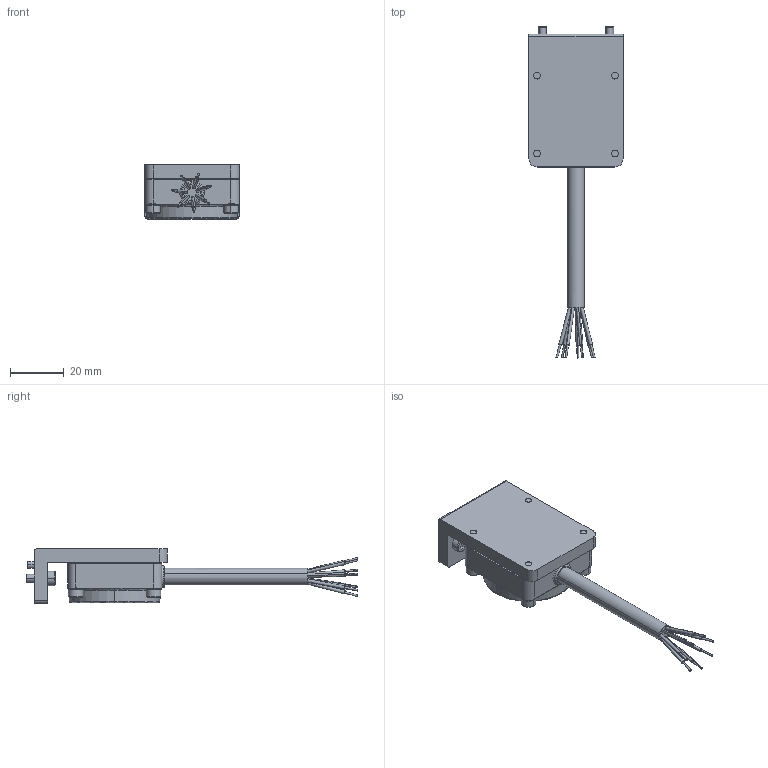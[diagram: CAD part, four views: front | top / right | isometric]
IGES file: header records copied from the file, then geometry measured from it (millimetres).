
Start section: 3D InterOp IGES (v. 2022 1.0.0), Spatial Corp. Copyright (c) 1999-2020.
Global section: file name: KHB-7RS-NN4,NP4_ver1.igs; native system: Spatial Corp.; preprocessor: 3D InterOp GENERIC/IGES 3.0; author: Noname; organization: Noname; date: 20260424.114550; units: millimetre
Bounding box: 35 x 123.57 x 20.2 mm (x, y, z)
Surface area: 12822.9 mm2 (no closed solid volume)
Topology: 0 solids, 0 shells, 335 faces, 1586 edges, 1582 vertices
Faces by surface type: revolution 206, extrusion 116, bspline 13
